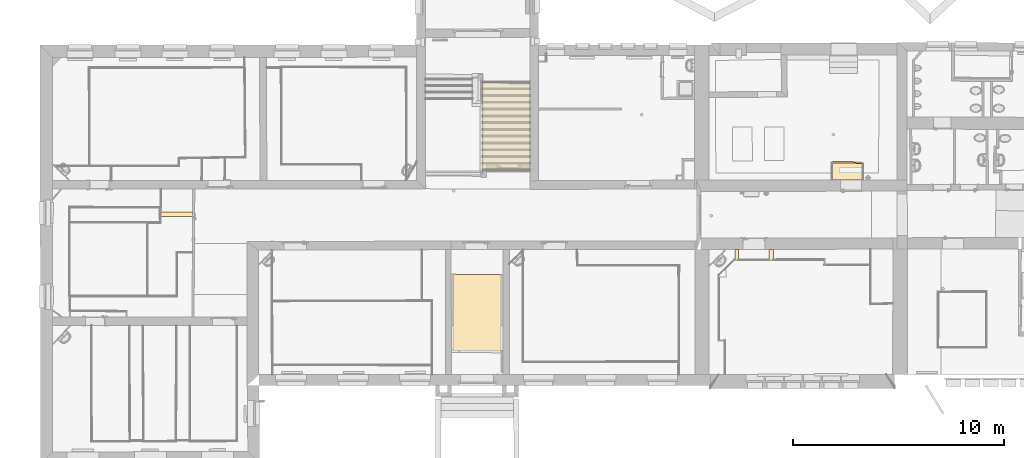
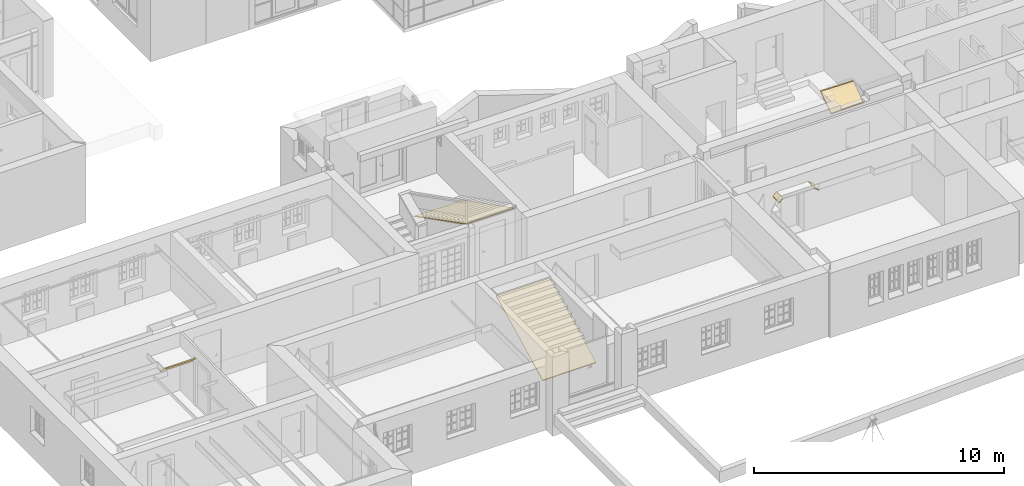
# One storey, part 187 of 196: 6 coverings.
"""IFC2X3 building model written with IfcOpenShell, lengths in metres."""

import ifcopenshell
import ifcopenshell.guid

model = None  # the IFC model being written
_history = None  # IfcOwnerHistory: only IFC2X3 demands one
_inside = {}  # id of a spatial element -> (the spatial element, [elements in it])
_under = {}  # id of a project, library or spatial element -> (it, [spatial elements below it])
_declared = {}  # id of a project -> (the project, [libraries it declares])
_typed = {}  # id of a type object -> (the type object, [elements of that type])
_made_of = {}  # id of a material, layer set ... -> (it, [elements and type objects made of it])


def new_model(schema):
    """Start an empty IFC model of exactly this schema.

    Asked for "IFC4X3", IfcOpenShell would pick the latest addendum, in which some entities
    have other attributes; the version numbers below select the first issue.
    IFC2X3 requires an IfcOwnerHistory on every rooted entity: one is made here for all.
    """
    global model, _history
    if schema == "IFC4X3":
        model = ifcopenshell.file(schema_version=(4, 3, 0, 0))
    else:
        model = ifcopenshell.file(schema=schema)
    _inside.clear()
    _under.clear()
    _declared.clear()
    _typed.clear()
    _made_of.clear()
    _history = None
    if model.schema == "IFC2X3":
        org = make("IfcOrganization", Name="unknown")
        user = make(
            "IfcPersonAndOrganization",
            ThePerson=make("IfcPerson", FamilyName="unknown"),
            TheOrganization=org,
        )
        app = make(
            "IfcApplication",
            ApplicationDeveloper=org,
            Version="unknown",
            ApplicationFullName="unknown",
            ApplicationIdentifier="unknown",
        )
        _history = make(
            "IfcOwnerHistory",
            OwningUser=user,
            OwningApplication=app,
            ChangeAction="ADDED",
            CreationDate=0,
        )
    return model


def make(cls, **values):
    """One entity of the class cls with the attributes given. An attribute that is None is left unset."""
    return model.create_entity(
        cls, **{name: value for name, value in values.items() if value is not None}
    )


def entity(cls, *values):
    """Any entity or typed value of the class cls, its attributes in the order of the schema. None: left unset."""
    e = model.create_entity(cls)
    for i, value in enumerate(values):
        if value is not None:
            e[i] = value
    return e


def rooted(cls, **values):
    """An entity with a GlobalId (a new one), such as an element, a storey or a relation."""
    return make(cls, GlobalId=ifcopenshell.guid.new(), OwnerHistory=_history, **values)


def si_unit(unit_type, name, prefix=None):
    """IfcSIUnit, for example si_unit("LENGTHUNIT", "METRE", prefix="MILLI")."""
    return make("IfcSIUnit", UnitType=unit_type, Prefix=prefix, Name=name)


def converted_unit(unit_type, name, factor, base, dimensions=None, offset=None):
    """IfcConversionBasedUnit, such as the inch: factor (a typed value) times the base unit."""
    return make(
        "IfcConversionBasedUnit"
        if offset is None
        else "IfcConversionBasedUnitWithOffset",
        ConversionOffset=offset,
        Dimensions=None
        if dimensions is None
        else entity("IfcDimensionalExponents", *dimensions),
        UnitType=unit_type,
        Name=name,
        ConversionFactor=make(
            "IfcMeasureWithUnit", ValueComponent=factor, UnitComponent=base
        ),
    )


def derived_unit(unit_type, elements):
    """IfcDerivedUnit: a product of units, each with its exponent."""
    return make(
        "IfcDerivedUnit",
        Elements=[
            make("IfcDerivedUnitElement", Unit=unit, Exponent=power)
            for unit, power in elements
        ],
        UnitType=unit_type,
    )


def money_unit(currency):
    """IfcMonetaryUnit."""
    return make("IfcMonetaryUnit", Currency=currency)


def assignment(units):
    """IfcUnitAssignment: the units of a project."""
    return None if units is None else make("IfcUnitAssignment", Units=units)


def point(xyz):
    """IfcCartesianPoint."""
    return None if xyz is None else make("IfcCartesianPoint", Coordinates=xyz)


def direction(xyz):
    """IfcDirection."""
    return None if xyz is None else make("IfcDirection", DirectionRatios=xyz)


def frame(location, z_axis=None, x_axis=None):
    """IfcAxis2Placement3D, a coordinate frame: its origin and axes. An axis left out is left unset."""
    return make(
        "IfcAxis2Placement3D",
        Location=point(location),
        Axis=direction(z_axis),
        RefDirection=direction(x_axis),
    )


def origin_with_axes():
    """The frame at (0, 0, 0) with the z axis (0, 0, 1) and the x axis (1, 0, 0) written out."""
    return frame((0.0, 0.0, 0.0), z_axis=(0.0, 0.0, 1.0), x_axis=(1.0, 0.0, 0.0))


def place(relative_to, where):
    """IfcLocalPlacement: puts the frame where relative to a parent placement (None: the world)."""
    return make(
        "IfcLocalPlacement", PlacementRelTo=relative_to, RelativePlacement=where
    )


def context(
    kind, dimensions, precision=None, world=None, true_north=None, identifier=None
):
    """IfcGeometricRepresentationContext, for example the 3D "Model" context."""
    return make(
        "IfcGeometricRepresentationContext",
        ContextIdentifier=identifier,
        ContextType=kind,
        CoordinateSpaceDimension=dimensions,
        Precision=precision,
        WorldCoordinateSystem=world,
        TrueNorth=true_north,
    )


def subcontext(parent, identifier, kind, view, scale=None):
    """IfcGeometricRepresentationSubContext, for example "Body" below "Model"."""
    return make(
        "IfcGeometricRepresentationSubContext",
        ContextIdentifier=identifier,
        ContextType=kind,
        ParentContext=parent,
        TargetScale=scale,
        TargetView=view,
    )


def project(units=None, contexts=None):
    """IfcProject with its units and contexts."""
    return rooted(
        "IfcProject",
        Name="project",
        RepresentationContexts=contexts,
        UnitsInContext=assignment(units),
    )


def spatial(cls, under=None, at=None, **own):
    """A site, building, storey or space (cls), placed at a placement, below another one or the project."""
    s = rooted(cls, ObjectPlacement=at, **own)
    if under is not None:
        _under.setdefault(under.id(), (under, []))[1].append(s)
    return s


def polyline(points):
    """IfcPolyline through the points."""
    return make("IfcPolyline", Points=[point(p) for p in points])


def outline(outer, holes=None, kind="AREA"):
    """IfcArbitraryClosedProfileDef: a profile drawn as a closed curve; with holes, ...WithVoids."""
    if holes is None:
        return make("IfcArbitraryClosedProfileDef", ProfileType=kind, OuterCurve=outer)
    return make(
        "IfcArbitraryProfileDefWithVoids",
        ProfileType=kind,
        OuterCurve=outer,
        InnerCurves=holes,
    )


def extrude(swept, where, along, depth):
    """IfcExtrudedAreaSolid: the profile swept, set in the frame where, extruded along a direction by depth."""
    return make(
        "IfcExtrudedAreaSolid",
        SweptArea=swept,
        Position=where,
        ExtrudedDirection=direction(along),
        Depth=depth,
    )


def boolean(op, a, b):
    """IfcBooleanResult of two solids."""
    return make("IfcBooleanResult", Operator=op, FirstOperand=a, SecondOperand=b)


def faces_of(points, faces, orient=None, outer=None):
    """IfcFace entities. A face is a list of loops; a loop is a list of indices into points, from 0.

    orient and outer hold one flag for each loop. By default every Orientation is true, the
    first loop of a face is its IfcFaceOuterBound and the others are IfcFaceBound.
    """
    made = []
    for i, loops in enumerate(faces):
        bounds = []
        for j, loop in enumerate(loops):
            is_outer = j == 0 if outer is None else outer[i][j]
            bounds.append(
                make(
                    "IfcFaceOuterBound" if is_outer else "IfcFaceBound",
                    Bound=make("IfcPolyLoop", Polygon=[points[k] for k in loop]),
                    Orientation=True if orient is None else orient[i][j],
                )
            )
        made.append(make("IfcFace", Bounds=bounds))
    return made


def faceted_brep(points, faces, orient=None, outer=None, voids=None):
    """IfcFacetedBrep: a solid bounded by flat faces; with voids (closed shells), ...WithVoids."""
    shared = [point(p) for p in points]
    hull = make("IfcClosedShell", CfsFaces=faces_of(shared, faces, orient, outer))
    if voids is None:
        return make("IfcFacetedBrep", Outer=hull)
    return make(
        "IfcFacetedBrepWithVoids",
        Outer=hull,
        Voids=[
            make(cls, CfsFaces=faces_of(shared, fs, o, b)) for cls, fs, o, b in voids
        ],
    )


def shape(context_of_items, identifier, shape_type, items):
    """IfcShapeRepresentation: the items that make up one representation, for example the "Body"."""
    return make(
        "IfcShapeRepresentation",
        ContextOfItems=context_of_items,
        RepresentationIdentifier=identifier,
        RepresentationType=shape_type,
        Items=items,
    )


def material(Name=None, Category=None):
    """IfcMaterial."""
    return make("IfcMaterial", Name=Name, Category=Category)


def made_of(thing, what):
    """Note that an element or type object is made of a material, layer set ...; save() writes the relation."""
    if what is not None:
        _made_of.setdefault(what.id(), (what, []))[1].append(thing)
    return thing


def type_object(cls, material=None, **own):
    """A type object (cls), such as IfcWallType, which elements share."""
    return made_of(rooted(cls, **own), material)


def element(
    cls,
    number,
    at=None,
    inside=None,
    cuts=None,
    type_object=None,
    material=None,
    context=None,
    identifier="Body",
    shape_type=None,
    held_by="IfcProductDefinitionShape",
    body=None,
    shapes=None,
    **own,
):
    """One element of the class cls, such as IfcWall. Its Tag is "e" and its number.

    at: its placement. inside: the storey or other place that contains it. cuts: it is an
    opening in that element (IfcRelVoidsElement). A single representation is given by context,
    identifier, shape_type and body (its items); several are given by shapes. held_by: the class
    of the entity that holds the representations. save() writes the other relations.
    """
    e = rooted(cls, Tag="e%d" % number, ObjectPlacement=at, **own)
    if body is not None:
        shapes = [shape(context, identifier, shape_type, body)]
    if shapes is not None:
        e.Representation = make(held_by, Representations=shapes)
    if inside is not None:
        _inside.setdefault(inside.id(), (inside, []))[1].append(e)
    if cuts is not None:
        rooted(
            "IfcRelVoidsElement", RelatingBuildingElement=cuts, RelatedOpeningElement=e
        )
    if type_object is not None:
        _typed.setdefault(type_object.id(), (type_object, []))[1].append(e)
    return made_of(e, material)


def aggregate(whole, parts):
    """IfcRelAggregates: a whole, such as a stair, and the parts it consists of."""
    return rooted("IfcRelAggregates", RelatingObject=whole, RelatedObjects=parts)


def save(model, path):
    """Write the relations noted so far, then the file.

    IfcRelAggregates (storeys below a building ...), IfcRelContainedInSpatialStructure (elements
    in a storey), IfcRelDefinesByType, IfcRelAssociatesMaterial and IfcRelDeclares: one each for
    every whole, place, type object, material and project.
    """
    for whole, parts in _under.values():
        aggregate(whole, parts)
    for where, things in _inside.values():
        rooted(
            "IfcRelContainedInSpatialStructure",
            RelatedElements=things,
            RelatingStructure=where,
        )
    for kind, things in _typed.values():
        rooted("IfcRelDefinesByType", RelatedObjects=things, RelatingType=kind)
    for what, things in _made_of.values():
        rooted("IfcRelAssociatesMaterial", RelatedObjects=things, RelatingMaterial=what)
    for by, libraries in _declared.values():
        rooted("IfcRelDeclares", RelatingContext=by, RelatedDefinitions=libraries)
    model.write(path)


model = new_model("IFC2X3")

# Units and contexts
model_context = context("Model", 3, precision=1e-05, world=origin_with_axes(), true_north=direction((0.0, 1.0)))
body_context = subcontext(model_context, "Body", "Model", "MODEL_VIEW")
ifc_project = project(units=[si_unit("LENGTHUNIT", "METRE"), si_unit("AREAUNIT", "SQUARE_METRE"), si_unit("VOLUMEUNIT", "CUBIC_METRE"), converted_unit("PLANEANGLEUNIT", "DEGREE", entity("IfcPlaneAngleMeasure", 0.0174532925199), si_unit("PLANEANGLEUNIT", "RADIAN"), dimensions=[0, 0, 0, 0, 0, 0, 0]), money_unit("EUR"), converted_unit("TIMEUNIT", "Year", entity("IfcTimeMeasure", 31556926.0), si_unit("TIMEUNIT", "SECOND"), dimensions=[0, 0, 1, 0, 0, 0, 0]), si_unit("MASSUNIT", "GRAM", prefix="KILO"), si_unit("THERMODYNAMICTEMPERATUREUNIT", "DEGREE_CELSIUS"), si_unit("LUMINOUSINTENSITYUNIT", "LUMEN"), si_unit("ENERGYUNIT", "JOULE", prefix="MEGA"), derived_unit("THERMALCONDUCTANCEUNIT", [(si_unit("POWERUNIT", "WATT"), 1), (si_unit("LENGTHUNIT", "METRE"), -1), (si_unit("THERMODYNAMICTEMPERATUREUNIT", "KELVIN"), -1)]), derived_unit("SPECIFICHEATCAPACITYUNIT", [(si_unit("ENERGYUNIT", "JOULE"), 1), (si_unit("MASSUNIT", "GRAM", prefix="KILO"), -1), (si_unit("THERMODYNAMICTEMPERATUREUNIT", "KELVIN"), -1)]), derived_unit("MASSDENSITYUNIT", [(si_unit("MASSUNIT", "GRAM", prefix="KILO"), 1), (si_unit("VOLUMEUNIT", "CUBIC_METRE"), -1)])], contexts=[model_context])

# Site, building, storey
site_placement = place(None, origin_with_axes())
site = spatial("IfcSite", under=ifc_project, at=site_placement, Name="Gelände", CompositionType="ELEMENT")
building_placement = place(site_placement, origin_with_axes())
building = spatial("IfcBuilding", under=site, at=building_placement, Name="Gebäude", CompositionType="ELEMENT")
storey_placement = place(building_placement, frame((0.0, 0.0, -3.0), z_axis=(0.0, 0.0, 1.0), x_axis=(1.0, 0.0, 0.0)))
storey = spatial("IfcBuildingStorey", under=building, at=storey_placement, Name="KELLERGESCHOSS", CompositionType="ELEMENT", Elevation=-3.0)

# Coverings
ifc_material = material(Name="05_ALLGEMEIN - TRAGENDE BAUTEILE")
covering_type = type_object("IfcCoveringType", Name="05_ALLGEMEIN - TRAGENDE BAUTEILE 40", PredefinedType="CEILING")
covering_1_placement = place(storey_placement, frame((9.55697031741, 19.7830663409, 2.6118265), z_axis=(0.0, 0.0, 1.0), x_axis=(0.99977616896, -0.0211568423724, 0.0)))
element("IfcCovering", 1, at=covering_1_placement, inside=storey, type_object=covering_type, material=ifc_material, Name="Dach-001", PredefinedType="CEILING", context=body_context, shape_type="CSG", body=[
    boolean("DIFFERENCE", extrude(outline(polyline([(-0.132810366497, 0.989516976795), (-0.115151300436, -0.103998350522), (1.38443410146, -0.0639375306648), (1.37499815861, 0.986941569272), (-0.132810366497, 0.989516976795)])), frame((0.0, 0.0, 0.0), z_axis=(0.0, -0.579324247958, 0.815097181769), x_axis=(1.0, 0.0, 0.0)), (0.0, 0.579324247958, 0.815097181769), 0.0490739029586), faceted_brep([(1.37581434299, 0.73036234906, 0.5681735), (1.37505373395, 0.799408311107, 0.5681735), (1.37499815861, 0.804453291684, 0.571759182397), (1.37499815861, 0.804453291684, 0.620833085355), (-0.132668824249, 0.799408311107, 0.5681735), (-0.13130086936, 0.73036234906, 0.5681735), (-0.132810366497, 0.806552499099, 0.573251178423), (-0.132810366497, 0.806552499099, 0.622325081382)], [[[0, 1, 2, 3]], [[4, 1, 0, 5]], [[1, 4, 6, 2]], [[3, 2, 6, 7]], [[5, 0, 3, 7]], [[4, 5, 7, 6]]])),
])
covering_2_placement = place(storey_placement, frame((-5.26079346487, 29.8659722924, -2.30460092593), z_axis=(0.0, 0.0, 1.0), x_axis=(-0.999943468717, 0.0106329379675, 0.0)))
element("IfcCovering", 2, at=covering_2_placement, inside=storey, type_object=covering_type, material=ifc_material, Name="Dach-002", PredefinedType="CEILING", context=body_context, shape_type="CSG", body=[
    boolean("DIFFERENCE", extrude(outline(polyline([(1.80911907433, 6.15885509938), (1.7662357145, 10.8642527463), (-0.483549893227, 10.8509890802), (-0.440762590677, 6.1329198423), (1.80911907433, 6.15885509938)])), frame((0.0, 0.0, 0.0), z_axis=(0.0, -0.456453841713, 0.889747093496), x_axis=(1.0, 0.0, 0.0)), (0.0, 0.456453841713, 0.889747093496), 0.0449565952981), faceted_brep([(1.80545373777, 5.57051665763, 2.90271667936), (1.20863247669, 5.56417033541, 2.89946091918), (-0.441857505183, 5.56417033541, 2.89946091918), (-0.440762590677, 5.45674760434, 2.84435141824), (1.80623574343, 5.47979385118, 2.85617449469), (1.80545373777, 5.57051665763, 2.85776008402), (1.60937189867, 5.56843161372, 2.85669042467), (1.60937189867, 5.56843161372, 2.89946091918), (-0.442328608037, 5.61039052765, 2.89946091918), (1.60898787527, 5.60454596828, 2.89946091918), (-0.442328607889, 5.61039052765, 2.87821598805), (-0.440762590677, 5.45674760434, 2.79939482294), (1.80623574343, 5.47979385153, 2.81121789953), (1.60898787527, 5.60454596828, 2.87521763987)], [[[0, 1, 2, 3, 4]], [[1, 0, 5, 6, 7]], [[8, 2, 1, 7, 9]], [[8, 10, 11, 3, 2]], [[12, 4, 3, 11]], [[0, 4, 12, 5]], [[5, 12, 11, 10, 13, 6]], [[6, 13, 9, 7]], [[10, 8, 9, 13]]])),
])
covering_3_placement = place(storey_placement, frame((-8.2473389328, 11.6628830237, 0.89818091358), z_axis=(0.0, 0.0, 1.0), x_axis=(0.999757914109, -0.0220025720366, 0.0)))
element("IfcCovering", 3, at=covering_3_placement, inside=storey, type_object=covering_type, material=ifc_material, Name="Dach-002", PredefinedType="CEILING", context=body_context, shape_type="SweptSolid", body=[
    extrude(outline(polyline([(2.10334989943, -0.136711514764), (2.02106379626, 4.0178900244), (-0.445679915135, 3.98071127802), (-0.360917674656, -0.181529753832), (2.10334989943, -0.136711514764)])), frame((0.0, 0.0, 0.0), z_axis=(0.0, -0.450533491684, 0.8927595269), x_axis=(1.0, 0.0, 0.0)), (0.0, 0.450533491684, 0.8927595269), 0.0448048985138),
])
covering_4_placement = place(storey_placement, frame((-21.0841588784, 18.1663180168, 2.05753824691), z_axis=(0.0, 0.0, 1.0), x_axis=(-0.999988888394, 0.00471413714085, 0.0)))
element("IfcCovering", 4, at=covering_4_placement, inside=storey, type_object=covering_type, material=ifc_material, Name="Dach-003", PredefinedType="CEILING", context=body_context, shape_type="SweptSolid", body=[
    extrude(outline(polyline([(1.32491234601, -0.0133575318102), (1.32224917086, 0.302851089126), (-0.19434351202, 0.303188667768), (-0.19457352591, -0.0103826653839), (1.32491234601, -0.0133575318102)])), frame((0.0, 0.0, 0.0), z_axis=(0.0, -0.761188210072, 0.648531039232), x_axis=(1.0, 0.0, 0.0)), (0.0, 0.761188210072, 0.648531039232), 0.0616778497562),
])
covering_5_placement = place(storey_placement, frame((6.68108943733, 16.3233637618, 2.10311495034), z_axis=(0.0, 0.0, 1.0), x_axis=(0.00420478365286, -0.999991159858, 0.0)))
element("IfcCovering", 5, at=covering_5_placement, inside=storey, type_object=covering_type, material=ifc_material, Name="Dach-004", PredefinedType="CEILING", context=body_context, shape_type="SweptSolid", body=[
    extrude(outline(polyline([(-0.0818528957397, 0.000706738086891), (-0.0823915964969, -0.267646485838), (0.429443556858, -0.261446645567), (0.429973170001, -0.00371249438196), (-0.0818528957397, 0.000706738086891)])), frame((0.0, 0.0, 0.0), z_axis=(0.0, 0.63108205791, 0.775716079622), x_axis=(1.0, 0.0, 0.0)), (0.0, -0.63108205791, 0.775716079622), 0.051565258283),
])
covering_6_placement = place(storey_placement, frame((4.84775790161, 16.3021028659, 2.13), z_axis=(0.0, 0.0, 1.0), x_axis=(-0.0134284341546, -0.999909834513, 0.0)))
element("IfcCovering", 6, at=covering_6_placement, inside=storey, type_object=covering_type, material=ifc_material, Name="Dach-005", PredefinedType="CEILING", context=body_context, shape_type="CSG", body=[
    boolean("DIFFERENCE", extrude(outline(polyline([(-0.100161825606, 0.0), (0.411616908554, 0.0), (0.408895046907, 0.240662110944), (-0.102912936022, 0.242259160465), (-0.100161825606, 0.0)])), frame((0.0, 0.0, 0.0), z_axis=(0.0, -0.656059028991, 0.754709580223), x_axis=(1.0, 0.0, 0.0)), (0.0, 0.656059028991, 0.754709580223), 0.053000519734), faceted_brep([(0.409203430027, 0.161051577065, 0.14), (-0.102585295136, 0.161051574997, 0.14), (-0.102912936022, 0.182835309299, 0.158936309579), (0.408895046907, 0.181630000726, 0.157888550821), (-0.102518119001, 0.156587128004, 0.14), (0.409288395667, 0.155381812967, 0.14), (-0.102518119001, 0.156587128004, 0.189119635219), (-0.102533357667, 0.157599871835, 0.19), (-0.102913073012, 0.182835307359, 0.19), (0.378890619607, 0.18170066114, 0.19), (0.378890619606, 0.181700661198, 0.210950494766), (0.408895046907, 0.181630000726, 0.210889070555), (0.409288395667, 0.155381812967, 0.188071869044), (0.379251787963, 0.157599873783, 0.19)], [[[0, 1, 2, 3]], [[4, 1, 0, 5]], [[4, 6, 7, 8, 2, 1]], [[9, 10, 11, 3, 2, 8]], [[5, 0, 3, 11, 12]], [[12, 6, 4, 5]], [[6, 12, 11, 10, 13, 7]], [[9, 8, 7, 13]], [[13, 10, 9]]])),
])

save(model, "model.ifc")
